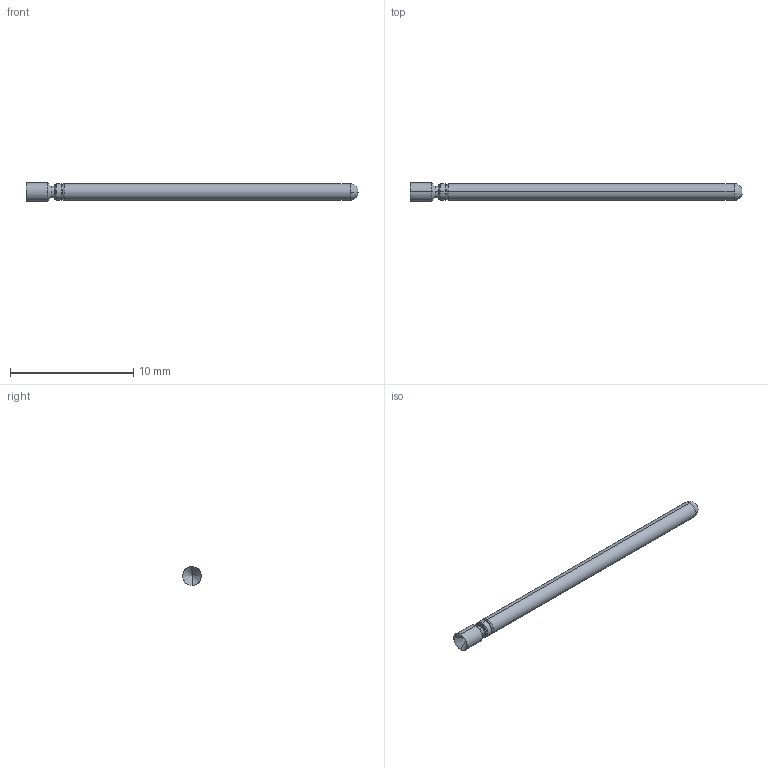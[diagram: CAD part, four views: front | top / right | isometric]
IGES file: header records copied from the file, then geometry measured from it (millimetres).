
Start section: SolidWorks IGES file using analytic representation for surfaces
Global section: file name: Z:\probe solid model mockups\Solidworks models\LTP-25\LTP-25A Full.IGS; native system: SolidWorks 2006 by SolidWorks Corporation; preprocessor: SolidWorks 2006 by SolidWorks Corporation; author: tsakatani; date: 071214.142958; units: inch
Bounding box: 26.92 x 1.52 x 1.52 mm (x, y, z)
Surface area: 120.4 mm2 (no closed solid volume)
Topology: 0 solids, 0 shells, 24 faces, 140 edges, 138 vertices
Faces by surface type: revolution 18, bspline 6
